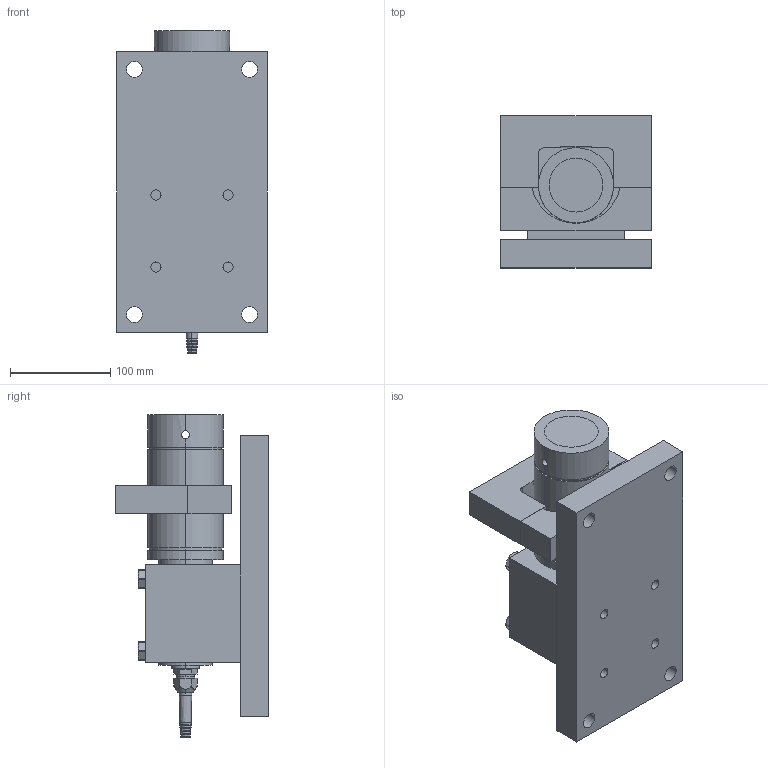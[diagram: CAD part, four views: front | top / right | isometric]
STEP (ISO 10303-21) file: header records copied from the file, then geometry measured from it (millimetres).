
FILE_DESCRIPTION (( 'STEP AP214' ), '1' );
FILE_NAME ('KIS-8 50 kN Module.STEP', '2021-06-30T10:33:30', ( '' ), ( '' ), 'SwSTEP 2.0', 'SolidWorks 2021', '' );
FILE_SCHEMA (( 'AUTOMOTIVE_DESIGN' ));
Length unit declared in the file: millimetre
Products named in the file (10): 500008r1 OK KIS-8 50 kN; M26x1.5 - Pg9 - 6369829; 500006r1; 500007r0 Platta KIS-8 50 kN; 500009r0  tippskydd KIS-8 50 kN; 500005r0; Pg9 - 1009.52 6_2_14; 400065r3; M12x110; KIS-8 50 kN Module
Assembly tree (12 placements, depth 2):
  KIS-8 50 kN Module
    400065r3
    500005r0
    500006r1
    M26x1.5 - Pg9 - 6369829
    Pg9 - 1009.52 6_2_14
    500007r0 Platta KIS-8 50 kN
    500008r1 OK KIS-8 50 kN
    500009r0  tippskydd KIS-8 50 kN
    M12x110  x4
Bounding box: 150 x 152 x 322 mm (x, y, z)
Volume: 2954687.5 mm3; surface area: 403056.3 mm2
Topology: 12 solids, 15 shells, 365 faces, 880 edges, 557 vertices
Faces by surface type: cylinder 149, plane 113, cone 77, bspline 16, torus 10
Entity records: 14362 total; most frequent: CARTESIAN_POINT 6410, DIRECTION 1468, ORIENTED_EDGE 1432, EDGE_CURVE 716, AXIS2_PLACEMENT_3D 598, VERTEX_POINT 455, EDGE_LOOP 361, CIRCLE 303
